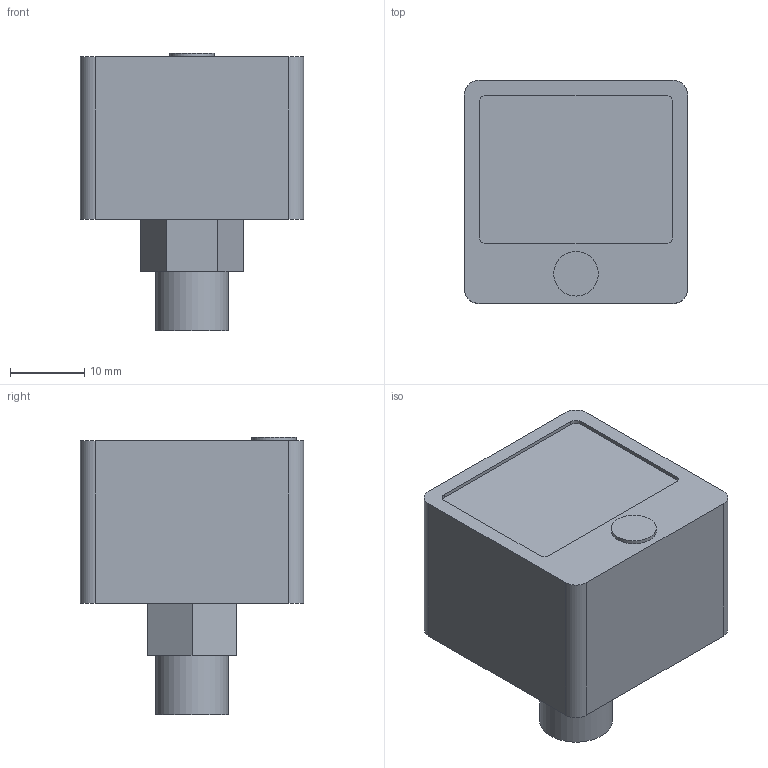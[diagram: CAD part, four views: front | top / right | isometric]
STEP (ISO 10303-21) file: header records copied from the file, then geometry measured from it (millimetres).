
FILE_DESCRIPTION(/* description */ ('VACUOMETRO DIGITALE A BATTERIA'),/* implementation_level */ '2;1');
FILE_NAME(/* name */ 'C:\PNX_VAULTFOLDER\Area Tecnica\Disegni\VARIE-3D\Componenti\1900 (vuoto)\DS_60_V_I_F1_F_0.stp',/* time_stamp */ '2019-09-16T09:31:12+02:00',/* author */ ('maniean1'),/* organization */ ('Pneumax S.p.A.'),/* preprocessor_version */ 'ST-DEVELOPER v17',/* originating_system */ 'Autodesk Inventor 2019',/* authorisation */ '');
FILE_SCHEMA (('AUTOMOTIVE_DESIGN { 1 0 10303 214 3 1 1 }'));
Length unit declared in the file: millimetre
Products named in the file (1): DS.60.V.I.F1.F.0
Bounding box: 30 x 30 x 37.3 mm (x, y, z)
Volume: 20606.2 mm3; surface area: 5080.2 mm2
Topology: 1 solids, 1 shells, 34 faces, 82 edges, 56 vertices
Faces by surface type: plane 22, cylinder 12
Full cylindrical faces by diameter (mm): 4.134 x2, 6 x1, 9.728 x1
Entity records: 1045 total; most frequent: DIRECTION 180, CARTESIAN_POINT 173, ORIENTED_EDGE 164, EDGE_CURVE 82, AXIS2_PLACEMENT_3D 63, VERTEX_POINT 56, LINE 54, VECTOR 54
